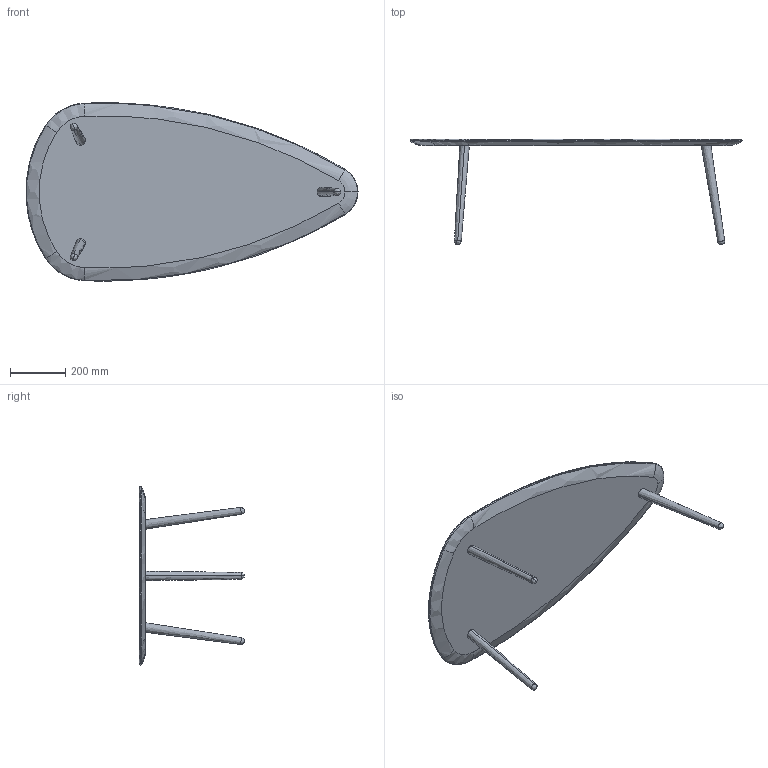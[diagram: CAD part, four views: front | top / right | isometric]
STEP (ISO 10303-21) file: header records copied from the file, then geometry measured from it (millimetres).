
FILE_DESCRIPTION (( 'STEP AP203' ), '1' );
FILE_NAME ('MALIN CLUB STO.STEP', '2020-07-08T10:20:46', ( '' ), ( '' ), 'SwSTEP 2.0', 'SolidWorks 2020', '' );
FILE_SCHEMA (( 'CONFIG_CONTROL_DESIGN' ));
Length unit declared in the file: millimetre
Products named in the file (1): MALIN CLUB STO
Bounding box: 1199.8 x 380.15 x 644.62 mm (x, y, z)
Surface area: 1293102.1 mm2 (no closed solid volume)
Topology: 0 solids, 4 shells, 49 faces, 115 edges, 65 vertices
Faces by surface type: bspline 49
Entity records: 3437 total; most frequent: CARTESIAN_POINT 2786, ORIENTED_EDGE 210, EDGE_CURVE 109, VERTEX_POINT 65, FACE_OUTER_BOUND 49, EDGE_LOOP 49, ADVANCED_FACE 49, B_SPLINE_CURVE_WITH_KNOTS 31
